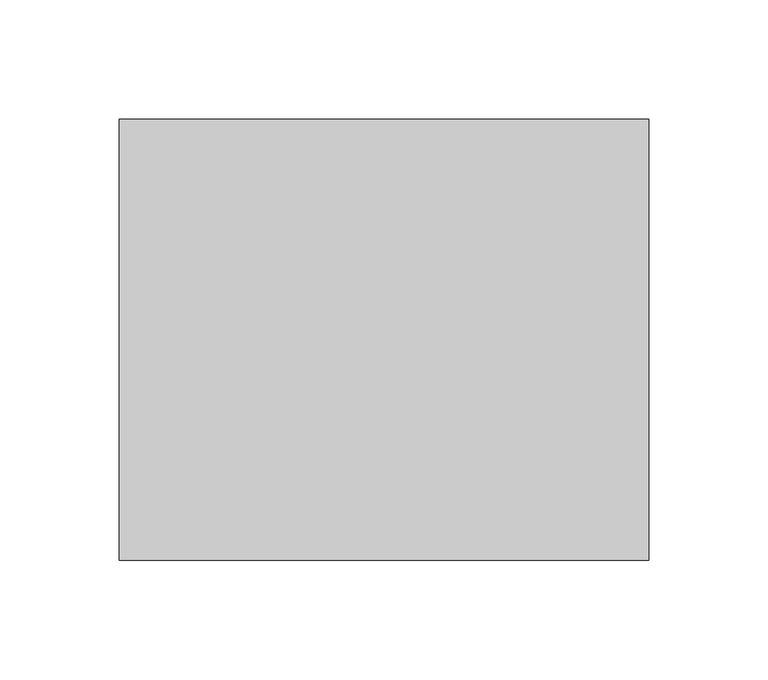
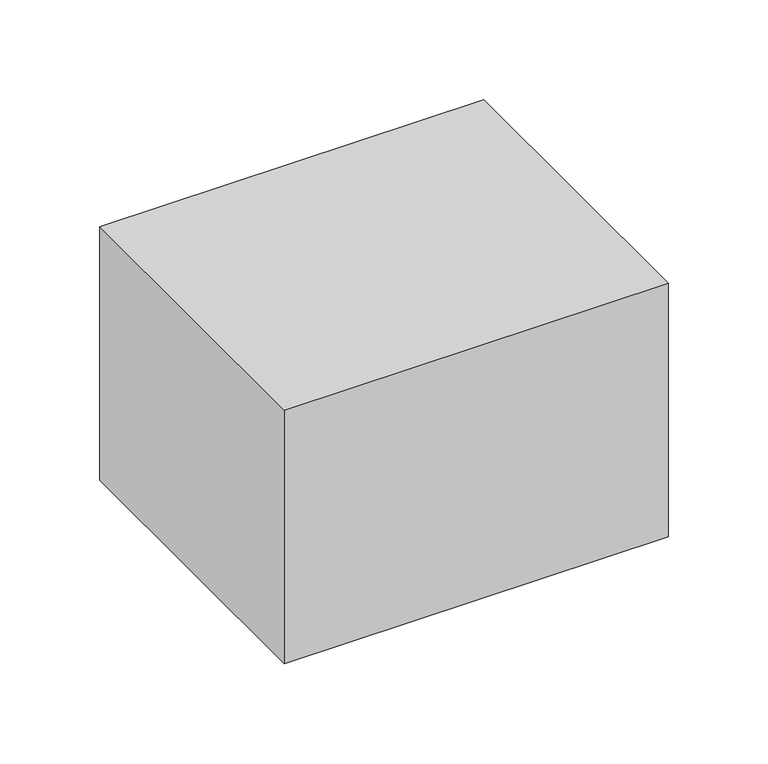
"""IFC4 building model written with IfcOpenShell, lengths in millimetres: light fixture geometry,  212 :  212062."""

from ifc_helpers import new_model, si_unit, frame, origin, place, context, project, spatial, polyline, outline, extrude, source, transform, mapped, element, save


def light_fixture_7ef588a0(model_context):
    return source(origin(), model_context, "Body", "SweptSolid", [
        extrude(outline(polyline([(-487.0423489, 23895.6121745), (-487.0423489, 23710.6121745), (-709.0423489, 23710.6121745), (-709.0423489, 23895.6121745), (-487.0423489, 23895.6121745)])), frame((0.0, 0.0, 1375.0), z_axis=(0.0, 0.0, 1.0), x_axis=(1.0, 0.0, 0.0)), (0.0, 0.0, 1.0), 155.0),
    ])


if __name__ == "__main__":
    model = new_model("IFC4")
    model_context = context("Model", 3, world=origin())
    ifc_project = project(units=[si_unit("LENGTHUNIT", "METRE", prefix="MILLI")], contexts=[model_context])
    site = spatial("IfcSite", under=ifc_project)
    building = spatial("IfcBuilding", under=site)
    placement = place(None, origin())
    light_fixture_shape = light_fixture_7ef588a0(model_context)
    element("IfcLightFixture", 1, ObjectType=" 212 :  212062", at=placement, inside=building, context=model_context, shape_type="MappedRepresentation", body=[
        mapped(light_fixture_shape, transform((0.0, 0.0, 0.0), x_axis=(1.0, 0.0, 0.0), y_axis=(0.0, 1.0, 0.0), z_axis=(0.0, 0.0, 1.0))),
    ])
    save(model, "model.ifc")
